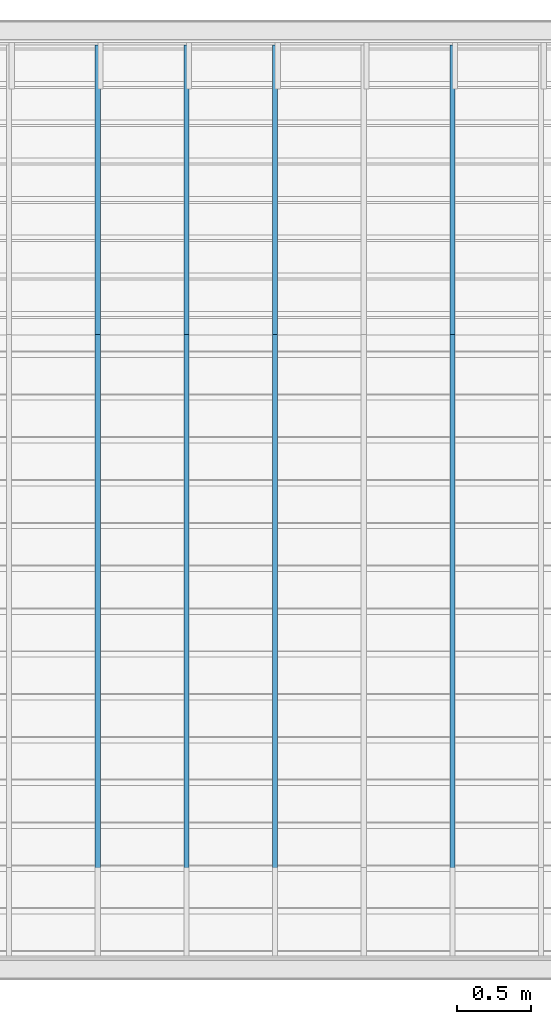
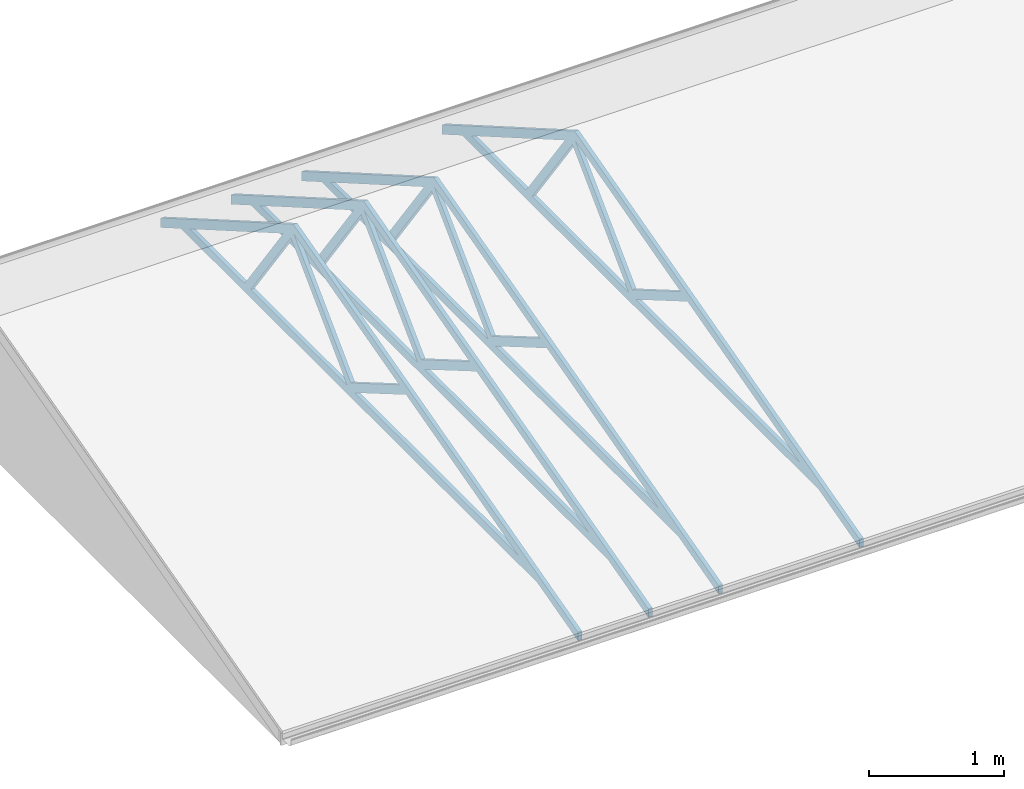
# One storey, part 3 of 12: 4 slabs.
"""IFC2X3 building model written with IfcOpenShell, lengths in millimetres."""

from ifc_helpers import new_model, entity, si_unit, converted_unit, money_unit, direction, frame, origin_with_axes, place, context, subcontext, project, spatial, faceted_brep, material, type_object, element, save


model = new_model("IFC2X3")

# Units and contexts
model_context = context("Model", 3, precision=1e-05, world=origin_with_axes(), true_north=direction((0.0, 1.0)))
body_context = subcontext(model_context, "Body", "Model", "MODEL_VIEW")
ifc_project = project(units=[si_unit("LENGTHUNIT", "METRE", prefix="MILLI"), si_unit("AREAUNIT", "SQUARE_METRE"), si_unit("VOLUMEUNIT", "CUBIC_METRE"), converted_unit("PLANEANGLEUNIT", "DEGREE", entity("IfcPlaneAngleMeasure", 0.0174532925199), si_unit("PLANEANGLEUNIT", "RADIAN"), dimensions=[0, 0, 0, 0, 0, 0, 0]), si_unit("SOLIDANGLEUNIT", "STERADIAN"), money_unit("AUD"), si_unit("TIMEUNIT", "SECOND"), si_unit("MASSUNIT", "GRAM"), si_unit("THERMODYNAMICTEMPERATUREUNIT", "DEGREE_CELSIUS"), si_unit("LUMINOUSINTENSITYUNIT", "LUMEN")], contexts=[model_context])

# Site, building, storey
site_placement = place(None, origin_with_axes())
site = spatial("IfcSite", under=ifc_project, at=site_placement, Name="Lot 1. East Hills", CompositionType="ELEMENT")
building_placement = place(site_placement, origin_with_axes())
building = spatial("IfcBuilding", under=site, at=building_placement, Name="Proposed Units 7 & 8", CompositionType="ELEMENT")
storey_placement = place(building_placement, frame((0.0, 0.0, 8395.0), z_axis=(0.0, 0.0, 1.0), x_axis=(1.0, 0.0, 0.0)))
storey = spatial("IfcBuildingStorey", under=building, at=storey_placement, Name="Roof", CompositionType="ELEMENT", Elevation=8395.0)

# Slabs
ifc_material = material(Name="50 %")
slab_type = type_object("IfcSlabType", Name="Roof Trust large", PredefinedType="NOTDEFINED")
slab_1_placement = place(storey_placement, frame((4955.0, -3.11548540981, 0.0), z_axis=(0.0, 0.0, 1.0), x_axis=(-1.0, 0.0, 0.0)))
element("IfcSlab", 1, at=slab_1_placement, inside=storey, type_object=slab_type, material=ifc_material, Name="TRUST_19 - Roof Trust large - object -", PredefinedType="ROOF", context=body_context, shape_type="Brep", body=[
    faceted_brep([(0.0, 600.020035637, -160.773638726), (0.0, 600.020035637, -160.673638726), (35.0, 600.020035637, -160.673638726), (35.0, 600.020035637, -160.773638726), (0.0, 599.923443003, -160.747757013), (0.0, 0.0966282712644, -0.0259204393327), (0.0, 3.56373446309e-05, -3.87262417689e-05), (0.0, -0.0999643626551, -3.87262417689e-05), (0.0, -5264.89996436, -3.87262399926e-05), (0.0, -5264.99996436, -3.87262399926e-05), (0.0, -5265.08656691, -0.050038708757), (0.0, -5564.91336181, -173.155038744), (0.0, -5564.99996436, -173.205038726), (0.0, -5564.99996436, -173.105038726), (0.0, -5564.99996436, -86.7025387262), (0.0, -5564.99996436, -86.6025387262), (0.0, -5564.91336181, -86.552538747), (0.0, -3606.74656692, 1043.99496129), (0.0, -3606.65996436, 1044.04496127), (0.0, -3606.56337176, 1044.01907945), (0.0, 599.923443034, -83.102056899), (0.0, 600.020035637, -83.1279387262), (0.0, 600.020035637, -83.2279387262), (0.0, -279.899964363, 74.9999612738), (0.0, -279.996556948, 75.0258431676), (0.0, -1937.88337178, 519.25507938), (0.0, -1937.97996436, 519.280961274), (0.0, -1938.06635104, 519.230589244), (0.0, -2699.82357768, 75.0503333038), (0.0, -2699.90996436, 74.9999612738), (0.0, -2699.80996436, 74.9999612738), (0.0, -279.999964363, 74.9999612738), (0.0, -2039.93996436, 546.601961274), (0.0, -2040.03655692, 546.627843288), (0.0, -3595.96337181, 963.539079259), (0.0, -3596.05996436, 963.564961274), (0.0, -3595.98895391, 963.494551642), (0.0, -2755.09097481, 129.711370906), (0.0, -2755.01996436, 129.640961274), (0.0, -2754.93357759, 129.691333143), (0.0, -2040.02635114, 546.551589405), (0.0, -2806.42996436, 74.9999612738), (0.0, -2806.50097476, 75.0703709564), (0.0, -3640.32895396, 901.844551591), (0.0, -3640.39996436, 901.914961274), (0.0, -3640.45835547, 901.833779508), (0.0, -4235.11157326, 75.0811430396), (0.0, -4235.16996436, 74.9999612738), (0.0, -4235.06996436, 74.9999612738), (0.0, -2806.52996436, 74.9999612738), (0.0, -3751.98996436, 873.534961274), (0.0, -3752.07656695, 873.48496135), (0.0, -5135.00936178, 75.0499611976), (0.0, -5135.09596436, 74.9999612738), (0.0, -5134.99596436, 74.9999612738), (0.0, -4326.44996436, 74.9999612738), (0.0, -4326.34996436, 74.9999612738), (0.0, -4326.29157308, 75.0811429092), (0.0, -3752.04835565, 873.453779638), (35.0, 600.020035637, -83.2279387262), (35.0, 600.020035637, -83.1279387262), (35.0, 599.923443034, -83.102056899), (35.0, -3606.56337176, 1044.01907945), (35.0, -3606.65996436, 1044.04496127), (35.0, -3606.74656692, 1043.99496129), (35.0, -5564.91336181, -86.552538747), (35.0, -5564.99996436, -86.6025387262), (35.0, -5564.99996436, -86.7025387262), (35.0, -5564.99996436, -173.105038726), (35.0, -5564.99996436, -173.205038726), (35.0, -5564.91336181, -173.155038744), (35.0, -5265.08656691, -0.050038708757), (35.0, -5264.99996436, -3.87262399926e-05), (35.0, -5264.89996436, -3.87262399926e-05), (35.0, -0.0999643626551, -3.87262417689e-05), (35.0, 3.56373446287e-05, -3.87262417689e-05), (35.0, 0.0966282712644, -0.0259204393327), (35.0, 599.923443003, -160.747757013), (35.0, -279.899964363, 74.9999612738), (35.0, -279.999964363, 74.9999612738), (35.0, -2699.80996436, 74.9999612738), (35.0, -2699.90996436, 74.9999612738), (35.0, -2699.82357768, 75.0503333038), (35.0, -1938.06635104, 519.230589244), (35.0, -1937.97996436, 519.280961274), (35.0, -1937.88337178, 519.25507938), (35.0, -279.996556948, 75.0258431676), (35.0, -2039.93996436, 546.601961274), (35.0, -2040.02635114, 546.551589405), (35.0, -2754.93357759, 129.691333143), (35.0, -2755.01996436, 129.640961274), (35.0, -2755.09097481, 129.711370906), (35.0, -3595.98895391, 963.494551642), (35.0, -3596.05996436, 963.564961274), (35.0, -3595.96337181, 963.539079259), (35.0, -2040.03655692, 546.627843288), (35.0, -2806.42996436, 74.9999612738), (35.0, -2806.52996436, 74.9999612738), (35.0, -4235.06996436, 74.9999612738), (35.0, -4235.16996436, 74.9999612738), (35.0, -4235.11157326, 75.0811430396), (35.0, -3640.45835547, 901.833779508), (35.0, -3640.39996436, 901.914961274), (35.0, -3640.32895396, 901.844551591), (35.0, -2806.50097476, 75.0703709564), (35.0, -3751.98996436, 873.534961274), (35.0, -3752.04835565, 873.453779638), (35.0, -4326.29157308, 75.0811429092), (35.0, -4326.34996436, 74.9999612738), (35.0, -4326.44996436, 74.9999612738), (35.0, -5134.99596436, 74.9999612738), (35.0, -5135.09596436, 74.9999612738), (35.0, -5135.00936178, 75.0499611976), (35.0, -3752.07656695, 873.48496135)], [[[0, 1, 2, 3]], [[0, 4, 5, 6, 7, 8, 9, 10, 11, 12, 13, 14, 15, 16, 17, 18, 19, 20, 21, 22, 1], [23, 24, 25, 26, 27, 28, 29, 30, 31], [32, 33, 34, 35, 36, 37, 38, 39, 40], [41, 42, 43, 44, 45, 46, 47, 48, 49], [50, 51, 52, 53, 54, 55, 56, 57, 58]], [[1, 22, 59, 2]], [[3, 2, 59, 60, 61, 62, 63, 64, 65, 66, 67, 68, 69, 70, 71, 72, 73, 74, 75, 76, 77], [78, 79, 80, 81, 82, 83, 84, 85, 86], [87, 88, 89, 90, 91, 92, 93, 94, 95], [96, 97, 98, 99, 100, 101, 102, 103, 104], [105, 106, 107, 108, 109, 110, 111, 112, 113]], [[4, 0, 3, 77]], [[5, 4, 77, 76]], [[6, 5, 76, 75]], [[7, 6, 75, 74]], [[8, 7, 74, 73]], [[9, 8, 73, 72]], [[10, 9, 72, 71]], [[11, 10, 71, 70]], [[12, 11, 70, 69]], [[13, 12, 69, 68]], [[14, 13, 68, 67]], [[15, 14, 67, 66]], [[16, 15, 66, 65]], [[17, 16, 65, 64]], [[18, 17, 64, 63]], [[19, 18, 63, 62]], [[20, 19, 62, 61]], [[21, 20, 61, 60]], [[22, 21, 60, 59]], [[24, 23, 78, 86]], [[25, 24, 86, 85]], [[26, 25, 85, 84]], [[27, 26, 84, 83]], [[28, 27, 83, 82]], [[29, 28, 82, 81]], [[30, 29, 81, 80]], [[31, 30, 80, 79]], [[23, 31, 79, 78]], [[33, 32, 87, 95]], [[34, 33, 95, 94]], [[35, 34, 94, 93]], [[36, 35, 93, 92]], [[37, 36, 92, 91]], [[38, 37, 91, 90]], [[39, 38, 90, 89]], [[40, 39, 89, 88]], [[32, 40, 88, 87]], [[42, 41, 96, 104]], [[43, 42, 104, 103]], [[44, 43, 103, 102]], [[45, 44, 102, 101]], [[46, 45, 101, 100]], [[47, 46, 100, 99]], [[48, 47, 99, 98]], [[49, 48, 98, 97]], [[41, 49, 97, 96]], [[51, 50, 105, 113]], [[52, 51, 113, 112]], [[53, 52, 112, 111]], [[54, 53, 111, 110]], [[55, 54, 110, 109]], [[56, 55, 109, 108]], [[57, 56, 108, 107]], [[58, 57, 107, 106]], [[50, 58, 106, 105]]]),
])
slab_2_placement = place(storey_placement, frame((3755.0, -3.11548540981, 0.0), z_axis=(0.0, 0.0, 1.0), x_axis=(-1.0, 0.0, 0.0)))
element("IfcSlab", 2, at=slab_2_placement, inside=storey, type_object=slab_type, material=ifc_material, Name="TRUST_21 - Roof Trust large - object -", PredefinedType="ROOF", context=body_context, shape_type="Brep", body=[
    faceted_brep([(0.0, 600.020035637, -160.773638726), (0.0, 600.020035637, -160.673638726), (35.0, 600.020035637, -160.673638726), (35.0, 600.020035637, -160.773638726), (0.0, 599.923443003, -160.747757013), (0.0, 0.0966282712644, -0.0259204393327), (0.0, 3.56373446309e-05, -3.87262417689e-05), (0.0, -0.0999643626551, -3.87262417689e-05), (0.0, -5264.89996436, -3.87262399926e-05), (0.0, -5264.99996436, -3.87262399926e-05), (0.0, -5265.08656691, -0.050038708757), (0.0, -5564.91336181, -173.155038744), (0.0, -5564.99996436, -173.205038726), (0.0, -5564.99996436, -173.105038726), (0.0, -5564.99996436, -86.7025387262), (0.0, -5564.99996436, -86.6025387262), (0.0, -5564.91336181, -86.552538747), (0.0, -3606.74656692, 1043.99496129), (0.0, -3606.65996436, 1044.04496127), (0.0, -3606.56337176, 1044.01907945), (0.0, 599.923443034, -83.102056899), (0.0, 600.020035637, -83.1279387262), (0.0, 600.020035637, -83.2279387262), (0.0, -279.899964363, 74.9999612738), (0.0, -279.996556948, 75.0258431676), (0.0, -1937.88337178, 519.25507938), (0.0, -1937.97996436, 519.280961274), (0.0, -1938.06635104, 519.230589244), (0.0, -2699.82357768, 75.0503333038), (0.0, -2699.90996436, 74.9999612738), (0.0, -2699.80996436, 74.9999612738), (0.0, -279.999964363, 74.9999612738), (0.0, -2039.93996436, 546.601961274), (0.0, -2040.03655692, 546.627843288), (0.0, -3595.96337181, 963.539079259), (0.0, -3596.05996436, 963.564961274), (0.0, -3595.98895391, 963.494551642), (0.0, -2755.09097481, 129.711370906), (0.0, -2755.01996436, 129.640961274), (0.0, -2754.93357759, 129.691333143), (0.0, -2040.02635114, 546.551589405), (0.0, -2806.42996436, 74.9999612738), (0.0, -2806.50097476, 75.0703709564), (0.0, -3640.32895396, 901.844551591), (0.0, -3640.39996436, 901.914961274), (0.0, -3640.45835547, 901.833779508), (0.0, -4235.11157326, 75.0811430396), (0.0, -4235.16996436, 74.9999612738), (0.0, -4235.06996436, 74.9999612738), (0.0, -2806.52996436, 74.9999612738), (0.0, -3751.98996436, 873.534961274), (0.0, -3752.07656695, 873.48496135), (0.0, -5135.00936178, 75.0499611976), (0.0, -5135.09596436, 74.9999612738), (0.0, -5134.99596436, 74.9999612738), (0.0, -4326.44996436, 74.9999612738), (0.0, -4326.34996436, 74.9999612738), (0.0, -4326.29157308, 75.0811429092), (0.0, -3752.04835565, 873.453779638), (35.0, 600.020035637, -83.2279387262), (35.0, 600.020035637, -83.1279387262), (35.0, 599.923443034, -83.102056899), (35.0, -3606.56337176, 1044.01907945), (35.0, -3606.65996436, 1044.04496127), (35.0, -3606.74656692, 1043.99496129), (35.0, -5564.91336181, -86.552538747), (35.0, -5564.99996436, -86.6025387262), (35.0, -5564.99996436, -86.7025387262), (35.0, -5564.99996436, -173.105038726), (35.0, -5564.99996436, -173.205038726), (35.0, -5564.91336181, -173.155038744), (35.0, -5265.08656691, -0.050038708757), (35.0, -5264.99996436, -3.87262399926e-05), (35.0, -5264.89996436, -3.87262399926e-05), (35.0, -0.0999643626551, -3.87262417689e-05), (35.0, 3.56373446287e-05, -3.87262417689e-05), (35.0, 0.0966282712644, -0.0259204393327), (35.0, 599.923443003, -160.747757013), (35.0, -279.899964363, 74.9999612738), (35.0, -279.999964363, 74.9999612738), (35.0, -2699.80996436, 74.9999612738), (35.0, -2699.90996436, 74.9999612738), (35.0, -2699.82357768, 75.0503333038), (35.0, -1938.06635104, 519.230589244), (35.0, -1937.97996436, 519.280961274), (35.0, -1937.88337178, 519.25507938), (35.0, -279.996556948, 75.0258431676), (35.0, -2039.93996436, 546.601961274), (35.0, -2040.02635114, 546.551589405), (35.0, -2754.93357759, 129.691333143), (35.0, -2755.01996436, 129.640961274), (35.0, -2755.09097481, 129.711370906), (35.0, -3595.98895391, 963.494551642), (35.0, -3596.05996436, 963.564961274), (35.0, -3595.96337181, 963.539079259), (35.0, -2040.03655692, 546.627843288), (35.0, -2806.42996436, 74.9999612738), (35.0, -2806.52996436, 74.9999612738), (35.0, -4235.06996436, 74.9999612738), (35.0, -4235.16996436, 74.9999612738), (35.0, -4235.11157326, 75.0811430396), (35.0, -3640.45835547, 901.833779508), (35.0, -3640.39996436, 901.914961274), (35.0, -3640.32895396, 901.844551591), (35.0, -2806.50097476, 75.0703709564), (35.0, -3751.98996436, 873.534961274), (35.0, -3752.04835565, 873.453779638), (35.0, -4326.29157308, 75.0811429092), (35.0, -4326.34996436, 74.9999612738), (35.0, -4326.44996436, 74.9999612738), (35.0, -5134.99596436, 74.9999612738), (35.0, -5135.09596436, 74.9999612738), (35.0, -5135.00936178, 75.0499611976), (35.0, -3752.07656695, 873.48496135)], [[[0, 1, 2, 3]], [[0, 4, 5, 6, 7, 8, 9, 10, 11, 12, 13, 14, 15, 16, 17, 18, 19, 20, 21, 22, 1], [23, 24, 25, 26, 27, 28, 29, 30, 31], [32, 33, 34, 35, 36, 37, 38, 39, 40], [41, 42, 43, 44, 45, 46, 47, 48, 49], [50, 51, 52, 53, 54, 55, 56, 57, 58]], [[1, 22, 59, 2]], [[3, 2, 59, 60, 61, 62, 63, 64, 65, 66, 67, 68, 69, 70, 71, 72, 73, 74, 75, 76, 77], [78, 79, 80, 81, 82, 83, 84, 85, 86], [87, 88, 89, 90, 91, 92, 93, 94, 95], [96, 97, 98, 99, 100, 101, 102, 103, 104], [105, 106, 107, 108, 109, 110, 111, 112, 113]], [[4, 0, 3, 77]], [[5, 4, 77, 76]], [[6, 5, 76, 75]], [[7, 6, 75, 74]], [[8, 7, 74, 73]], [[9, 8, 73, 72]], [[10, 9, 72, 71]], [[11, 10, 71, 70]], [[12, 11, 70, 69]], [[13, 12, 69, 68]], [[14, 13, 68, 67]], [[15, 14, 67, 66]], [[16, 15, 66, 65]], [[17, 16, 65, 64]], [[18, 17, 64, 63]], [[19, 18, 63, 62]], [[20, 19, 62, 61]], [[21, 20, 61, 60]], [[22, 21, 60, 59]], [[24, 23, 78, 86]], [[25, 24, 86, 85]], [[26, 25, 85, 84]], [[27, 26, 84, 83]], [[28, 27, 83, 82]], [[29, 28, 82, 81]], [[30, 29, 81, 80]], [[31, 30, 80, 79]], [[23, 31, 79, 78]], [[33, 32, 87, 95]], [[34, 33, 95, 94]], [[35, 34, 94, 93]], [[36, 35, 93, 92]], [[37, 36, 92, 91]], [[38, 37, 91, 90]], [[39, 38, 90, 89]], [[40, 39, 89, 88]], [[32, 40, 88, 87]], [[42, 41, 96, 104]], [[43, 42, 104, 103]], [[44, 43, 103, 102]], [[45, 44, 102, 101]], [[46, 45, 101, 100]], [[47, 46, 100, 99]], [[48, 47, 99, 98]], [[49, 48, 98, 97]], [[41, 49, 97, 96]], [[51, 50, 105, 113]], [[52, 51, 113, 112]], [[53, 52, 112, 111]], [[54, 53, 111, 110]], [[55, 54, 110, 109]], [[56, 55, 109, 108]], [[57, 56, 108, 107]], [[58, 57, 107, 106]], [[50, 58, 106, 105]]]),
])
slab_3_placement = place(storey_placement, frame((3155.0, -3.11548540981, 0.0), z_axis=(0.0, 0.0, 1.0), x_axis=(-1.0, 0.0, 0.0)))
element("IfcSlab", 3, at=slab_3_placement, inside=storey, type_object=slab_type, material=ifc_material, Name="TRUST_22 - Roof Trust large - object -", PredefinedType="ROOF", context=body_context, shape_type="Brep", body=[
    faceted_brep([(0.0, 600.020035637, -160.773638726), (0.0, 600.020035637, -160.673638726), (35.0, 600.020035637, -160.673638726), (35.0, 600.020035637, -160.773638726), (0.0, 599.923443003, -160.747757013), (0.0, 0.0966282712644, -0.0259204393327), (0.0, 3.56373446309e-05, -3.87262417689e-05), (0.0, -0.0999643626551, -3.87262417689e-05), (0.0, -5264.89996436, -3.87262399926e-05), (0.0, -5264.99996436, -3.87262399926e-05), (0.0, -5265.08656691, -0.050038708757), (0.0, -5564.91336181, -173.155038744), (0.0, -5564.99996436, -173.205038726), (0.0, -5564.99996436, -173.105038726), (0.0, -5564.99996436, -86.7025387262), (0.0, -5564.99996436, -86.6025387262), (0.0, -5564.91336181, -86.552538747), (0.0, -3606.74656692, 1043.99496129), (0.0, -3606.65996436, 1044.04496127), (0.0, -3606.56337176, 1044.01907945), (0.0, 599.923443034, -83.102056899), (0.0, 600.020035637, -83.1279387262), (0.0, 600.020035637, -83.2279387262), (0.0, -279.899964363, 74.9999612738), (0.0, -279.996556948, 75.0258431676), (0.0, -1937.88337178, 519.25507938), (0.0, -1937.97996436, 519.280961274), (0.0, -1938.06635104, 519.230589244), (0.0, -2699.82357768, 75.0503333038), (0.0, -2699.90996436, 74.9999612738), (0.0, -2699.80996436, 74.9999612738), (0.0, -279.999964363, 74.9999612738), (0.0, -2039.93996436, 546.601961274), (0.0, -2040.03655692, 546.627843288), (0.0, -3595.96337181, 963.539079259), (0.0, -3596.05996436, 963.564961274), (0.0, -3595.98895391, 963.494551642), (0.0, -2755.09097481, 129.711370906), (0.0, -2755.01996436, 129.640961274), (0.0, -2754.93357759, 129.691333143), (0.0, -2040.02635114, 546.551589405), (0.0, -2806.42996436, 74.9999612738), (0.0, -2806.50097476, 75.0703709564), (0.0, -3640.32895396, 901.844551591), (0.0, -3640.39996436, 901.914961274), (0.0, -3640.45835547, 901.833779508), (0.0, -4235.11157326, 75.0811430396), (0.0, -4235.16996436, 74.9999612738), (0.0, -4235.06996436, 74.9999612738), (0.0, -2806.52996436, 74.9999612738), (0.0, -3751.98996436, 873.534961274), (0.0, -3752.07656695, 873.48496135), (0.0, -5135.00936178, 75.0499611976), (0.0, -5135.09596436, 74.9999612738), (0.0, -5134.99596436, 74.9999612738), (0.0, -4326.44996436, 74.9999612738), (0.0, -4326.34996436, 74.9999612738), (0.0, -4326.29157308, 75.0811429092), (0.0, -3752.04835565, 873.453779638), (35.0, 600.020035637, -83.2279387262), (35.0, 600.020035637, -83.1279387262), (35.0, 599.923443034, -83.102056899), (35.0, -3606.56337176, 1044.01907945), (35.0, -3606.65996436, 1044.04496127), (35.0, -3606.74656692, 1043.99496129), (35.0, -5564.91336181, -86.552538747), (35.0, -5564.99996436, -86.6025387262), (35.0, -5564.99996436, -86.7025387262), (35.0, -5564.99996436, -173.105038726), (35.0, -5564.99996436, -173.205038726), (35.0, -5564.91336181, -173.155038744), (35.0, -5265.08656691, -0.050038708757), (35.0, -5264.99996436, -3.87262399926e-05), (35.0, -5264.89996436, -3.87262399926e-05), (35.0, -0.0999643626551, -3.87262417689e-05), (35.0, 3.56373446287e-05, -3.87262417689e-05), (35.0, 0.0966282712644, -0.0259204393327), (35.0, 599.923443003, -160.747757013), (35.0, -279.899964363, 74.9999612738), (35.0, -279.999964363, 74.9999612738), (35.0, -2699.80996436, 74.9999612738), (35.0, -2699.90996436, 74.9999612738), (35.0, -2699.82357768, 75.0503333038), (35.0, -1938.06635104, 519.230589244), (35.0, -1937.97996436, 519.280961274), (35.0, -1937.88337178, 519.25507938), (35.0, -279.996556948, 75.0258431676), (35.0, -2039.93996436, 546.601961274), (35.0, -2040.02635114, 546.551589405), (35.0, -2754.93357759, 129.691333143), (35.0, -2755.01996436, 129.640961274), (35.0, -2755.09097481, 129.711370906), (35.0, -3595.98895391, 963.494551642), (35.0, -3596.05996436, 963.564961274), (35.0, -3595.96337181, 963.539079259), (35.0, -2040.03655692, 546.627843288), (35.0, -2806.42996436, 74.9999612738), (35.0, -2806.52996436, 74.9999612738), (35.0, -4235.06996436, 74.9999612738), (35.0, -4235.16996436, 74.9999612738), (35.0, -4235.11157326, 75.0811430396), (35.0, -3640.45835547, 901.833779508), (35.0, -3640.39996436, 901.914961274), (35.0, -3640.32895396, 901.844551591), (35.0, -2806.50097476, 75.0703709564), (35.0, -3751.98996436, 873.534961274), (35.0, -3752.04835565, 873.453779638), (35.0, -4326.29157308, 75.0811429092), (35.0, -4326.34996436, 74.9999612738), (35.0, -4326.44996436, 74.9999612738), (35.0, -5134.99596436, 74.9999612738), (35.0, -5135.09596436, 74.9999612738), (35.0, -5135.00936178, 75.0499611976), (35.0, -3752.07656695, 873.48496135)], [[[0, 1, 2, 3]], [[0, 4, 5, 6, 7, 8, 9, 10, 11, 12, 13, 14, 15, 16, 17, 18, 19, 20, 21, 22, 1], [23, 24, 25, 26, 27, 28, 29, 30, 31], [32, 33, 34, 35, 36, 37, 38, 39, 40], [41, 42, 43, 44, 45, 46, 47, 48, 49], [50, 51, 52, 53, 54, 55, 56, 57, 58]], [[1, 22, 59, 2]], [[3, 2, 59, 60, 61, 62, 63, 64, 65, 66, 67, 68, 69, 70, 71, 72, 73, 74, 75, 76, 77], [78, 79, 80, 81, 82, 83, 84, 85, 86], [87, 88, 89, 90, 91, 92, 93, 94, 95], [96, 97, 98, 99, 100, 101, 102, 103, 104], [105, 106, 107, 108, 109, 110, 111, 112, 113]], [[4, 0, 3, 77]], [[5, 4, 77, 76]], [[6, 5, 76, 75]], [[7, 6, 75, 74]], [[8, 7, 74, 73]], [[9, 8, 73, 72]], [[10, 9, 72, 71]], [[11, 10, 71, 70]], [[12, 11, 70, 69]], [[13, 12, 69, 68]], [[14, 13, 68, 67]], [[15, 14, 67, 66]], [[16, 15, 66, 65]], [[17, 16, 65, 64]], [[18, 17, 64, 63]], [[19, 18, 63, 62]], [[20, 19, 62, 61]], [[21, 20, 61, 60]], [[22, 21, 60, 59]], [[24, 23, 78, 86]], [[25, 24, 86, 85]], [[26, 25, 85, 84]], [[27, 26, 84, 83]], [[28, 27, 83, 82]], [[29, 28, 82, 81]], [[30, 29, 81, 80]], [[31, 30, 80, 79]], [[23, 31, 79, 78]], [[33, 32, 87, 95]], [[34, 33, 95, 94]], [[35, 34, 94, 93]], [[36, 35, 93, 92]], [[37, 36, 92, 91]], [[38, 37, 91, 90]], [[39, 38, 90, 89]], [[40, 39, 89, 88]], [[32, 40, 88, 87]], [[42, 41, 96, 104]], [[43, 42, 104, 103]], [[44, 43, 103, 102]], [[45, 44, 102, 101]], [[46, 45, 101, 100]], [[47, 46, 100, 99]], [[48, 47, 99, 98]], [[49, 48, 98, 97]], [[41, 49, 97, 96]], [[51, 50, 105, 113]], [[52, 51, 113, 112]], [[53, 52, 112, 111]], [[54, 53, 111, 110]], [[55, 54, 110, 109]], [[56, 55, 109, 108]], [[57, 56, 108, 107]], [[58, 57, 107, 106]], [[50, 58, 106, 105]]]),
])
slab_4_placement = place(storey_placement, frame((2555.0, -3.11548540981, 0.0), z_axis=(0.0, 0.0, 1.0), x_axis=(-1.0, 0.0, 0.0)))
element("IfcSlab", 4, at=slab_4_placement, inside=storey, type_object=slab_type, material=ifc_material, Name="TRUST_23 - Roof Trust large - object -", PredefinedType="ROOF", context=body_context, shape_type="Brep", body=[
    faceted_brep([(0.0, 600.020035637, -160.773638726), (0.0, 600.020035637, -160.673638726), (35.0, 600.020035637, -160.673638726), (35.0, 600.020035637, -160.773638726), (0.0, 599.923443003, -160.747757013), (0.0, 0.0966282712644, -0.0259204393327), (0.0, 3.56373446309e-05, -3.87262417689e-05), (0.0, -0.0999643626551, -3.87262417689e-05), (0.0, -5264.89996436, -3.87262399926e-05), (0.0, -5264.99996436, -3.87262399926e-05), (0.0, -5265.08656691, -0.050038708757), (0.0, -5564.91336181, -173.155038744), (0.0, -5564.99996436, -173.205038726), (0.0, -5564.99996436, -173.105038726), (0.0, -5564.99996436, -86.7025387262), (0.0, -5564.99996436, -86.6025387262), (0.0, -5564.91336181, -86.552538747), (0.0, -3606.74656692, 1043.99496129), (0.0, -3606.65996436, 1044.04496127), (0.0, -3606.56337176, 1044.01907945), (0.0, 599.923443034, -83.102056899), (0.0, 600.020035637, -83.1279387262), (0.0, 600.020035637, -83.2279387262), (0.0, -279.899964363, 74.9999612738), (0.0, -279.996556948, 75.0258431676), (0.0, -1937.88337178, 519.25507938), (0.0, -1937.97996436, 519.280961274), (0.0, -1938.06635104, 519.230589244), (0.0, -2699.82357768, 75.0503333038), (0.0, -2699.90996436, 74.9999612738), (0.0, -2699.80996436, 74.9999612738), (0.0, -279.999964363, 74.9999612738), (0.0, -2039.93996436, 546.601961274), (0.0, -2040.03655692, 546.627843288), (0.0, -3595.96337181, 963.539079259), (0.0, -3596.05996436, 963.564961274), (0.0, -3595.98895391, 963.494551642), (0.0, -2755.09097481, 129.711370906), (0.0, -2755.01996436, 129.640961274), (0.0, -2754.93357759, 129.691333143), (0.0, -2040.02635114, 546.551589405), (0.0, -2806.42996436, 74.9999612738), (0.0, -2806.50097476, 75.0703709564), (0.0, -3640.32895396, 901.844551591), (0.0, -3640.39996436, 901.914961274), (0.0, -3640.45835547, 901.833779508), (0.0, -4235.11157326, 75.0811430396), (0.0, -4235.16996436, 74.9999612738), (0.0, -4235.06996436, 74.9999612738), (0.0, -2806.52996436, 74.9999612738), (0.0, -3751.98996436, 873.534961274), (0.0, -3752.07656695, 873.48496135), (0.0, -5135.00936178, 75.0499611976), (0.0, -5135.09596436, 74.9999612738), (0.0, -5134.99596436, 74.9999612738), (0.0, -4326.44996436, 74.9999612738), (0.0, -4326.34996436, 74.9999612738), (0.0, -4326.29157308, 75.0811429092), (0.0, -3752.04835565, 873.453779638), (35.0, 600.020035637, -83.2279387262), (35.0, 600.020035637, -83.1279387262), (35.0, 599.923443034, -83.102056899), (35.0, -3606.56337176, 1044.01907945), (35.0, -3606.65996436, 1044.04496127), (35.0, -3606.74656692, 1043.99496129), (35.0, -5564.91336181, -86.552538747), (35.0, -5564.99996436, -86.6025387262), (35.0, -5564.99996436, -86.7025387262), (35.0, -5564.99996436, -173.105038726), (35.0, -5564.99996436, -173.205038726), (35.0, -5564.91336181, -173.155038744), (35.0, -5265.08656691, -0.050038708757), (35.0, -5264.99996436, -3.87262399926e-05), (35.0, -5264.89996436, -3.87262399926e-05), (35.0, -0.0999643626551, -3.87262417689e-05), (35.0, 3.56373446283e-05, -3.87262417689e-05), (35.0, 0.0966282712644, -0.0259204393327), (35.0, 599.923443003, -160.747757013), (35.0, -279.899964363, 74.9999612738), (35.0, -279.999964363, 74.9999612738), (35.0, -2699.80996436, 74.9999612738), (35.0, -2699.90996436, 74.9999612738), (35.0, -2699.82357768, 75.0503333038), (35.0, -1938.06635104, 519.230589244), (35.0, -1937.97996436, 519.280961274), (35.0, -1937.88337178, 519.25507938), (35.0, -279.996556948, 75.0258431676), (35.0, -2039.93996436, 546.601961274), (35.0, -2040.02635114, 546.551589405), (35.0, -2754.93357759, 129.691333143), (35.0, -2755.01996436, 129.640961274), (35.0, -2755.09097481, 129.711370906), (35.0, -3595.98895391, 963.494551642), (35.0, -3596.05996436, 963.564961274), (35.0, -3595.96337181, 963.539079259), (35.0, -2040.03655692, 546.627843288), (35.0, -2806.42996436, 74.9999612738), (35.0, -2806.52996436, 74.9999612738), (35.0, -4235.06996436, 74.9999612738), (35.0, -4235.16996436, 74.9999612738), (35.0, -4235.11157326, 75.0811430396), (35.0, -3640.45835547, 901.833779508), (35.0, -3640.39996436, 901.914961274), (35.0, -3640.32895396, 901.844551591), (35.0, -2806.50097476, 75.0703709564), (35.0, -3751.98996436, 873.534961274), (35.0, -3752.04835565, 873.453779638), (35.0, -4326.29157308, 75.0811429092), (35.0, -4326.34996436, 74.9999612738), (35.0, -4326.44996436, 74.9999612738), (35.0, -5134.99596436, 74.9999612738), (35.0, -5135.09596436, 74.9999612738), (35.0, -5135.00936178, 75.0499611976), (35.0, -3752.07656695, 873.48496135)], [[[0, 1, 2, 3]], [[0, 4, 5, 6, 7, 8, 9, 10, 11, 12, 13, 14, 15, 16, 17, 18, 19, 20, 21, 22, 1], [23, 24, 25, 26, 27, 28, 29, 30, 31], [32, 33, 34, 35, 36, 37, 38, 39, 40], [41, 42, 43, 44, 45, 46, 47, 48, 49], [50, 51, 52, 53, 54, 55, 56, 57, 58]], [[1, 22, 59, 2]], [[3, 2, 59, 60, 61, 62, 63, 64, 65, 66, 67, 68, 69, 70, 71, 72, 73, 74, 75, 76, 77], [78, 79, 80, 81, 82, 83, 84, 85, 86], [87, 88, 89, 90, 91, 92, 93, 94, 95], [96, 97, 98, 99, 100, 101, 102, 103, 104], [105, 106, 107, 108, 109, 110, 111, 112, 113]], [[4, 0, 3, 77]], [[5, 4, 77, 76]], [[6, 5, 76, 75]], [[7, 6, 75, 74]], [[8, 7, 74, 73]], [[9, 8, 73, 72]], [[10, 9, 72, 71]], [[11, 10, 71, 70]], [[12, 11, 70, 69]], [[13, 12, 69, 68]], [[14, 13, 68, 67]], [[15, 14, 67, 66]], [[16, 15, 66, 65]], [[17, 16, 65, 64]], [[18, 17, 64, 63]], [[19, 18, 63, 62]], [[20, 19, 62, 61]], [[21, 20, 61, 60]], [[22, 21, 60, 59]], [[24, 23, 78, 86]], [[25, 24, 86, 85]], [[26, 25, 85, 84]], [[27, 26, 84, 83]], [[28, 27, 83, 82]], [[29, 28, 82, 81]], [[30, 29, 81, 80]], [[31, 30, 80, 79]], [[23, 31, 79, 78]], [[33, 32, 87, 95]], [[34, 33, 95, 94]], [[35, 34, 94, 93]], [[36, 35, 93, 92]], [[37, 36, 92, 91]], [[38, 37, 91, 90]], [[39, 38, 90, 89]], [[40, 39, 89, 88]], [[32, 40, 88, 87]], [[42, 41, 96, 104]], [[43, 42, 104, 103]], [[44, 43, 103, 102]], [[45, 44, 102, 101]], [[46, 45, 101, 100]], [[47, 46, 100, 99]], [[48, 47, 99, 98]], [[49, 48, 98, 97]], [[41, 49, 97, 96]], [[51, 50, 105, 113]], [[52, 51, 113, 112]], [[53, 52, 112, 111]], [[54, 53, 111, 110]], [[55, 54, 110, 109]], [[56, 55, 109, 108]], [[57, 56, 108, 107]], [[58, 57, 107, 106]], [[50, 58, 106, 105]]]),
])

save(model, "model.ifc")
